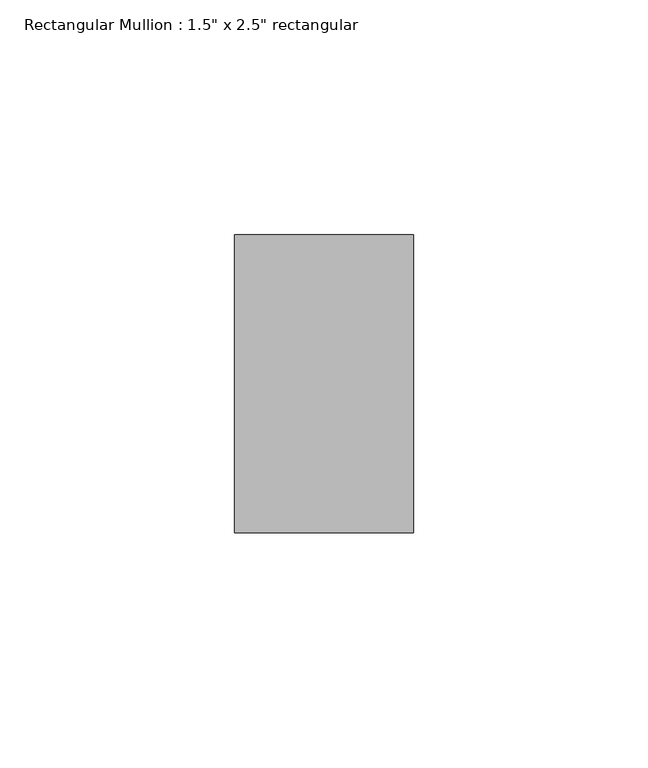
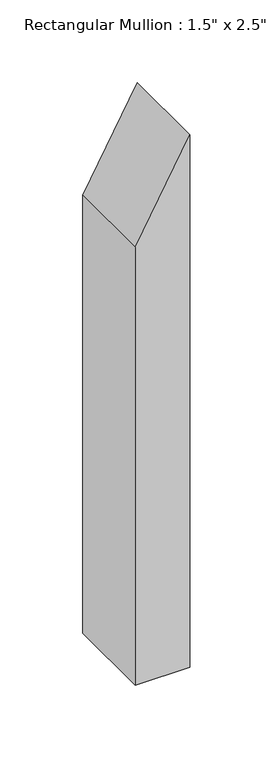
"""IFC4 building model written with IfcOpenShell, lengths in millimetres: member geometry."""

from ifc_helpers import new_model, si_unit, frame, origin, place, context, project, spatial, polyline, outline, extrude, source, transform, mapped, element, save


def member_2b5b1d27(model_context):
    return source(origin(), model_context, "Body", "SweptSolid", [
        extrude(outline(polyline([(0.0, 0.0), (-69.462522, -38.1), (-392.4188496, -38.1), (-392.4188496, 0.0), (0.0, 0.0)])), frame((0.0, -31.75, 0.0), z_axis=(0.0, 1.0, 0.0), x_axis=(0.0, 0.0, 1.0)), (0.0, 0.0, 1.0), 63.5),
    ])


if __name__ == "__main__":
    model = new_model("IFC4")
    model_context = context("Model", 3, world=origin())
    ifc_project = project(units=[si_unit("LENGTHUNIT", "METRE", prefix="MILLI")], contexts=[model_context])
    site = spatial("IfcSite", under=ifc_project)
    building = spatial("IfcBuilding", under=site)
    placement = place(None, origin())
    member_shape = member_2b5b1d27(model_context)
    element("IfcMember", 1, ObjectType="Rectangular Mullion : 1.5\" x 2.5\" rectangular", at=placement, inside=building, context=model_context, shape_type="MappedRepresentation", body=[
        mapped(member_shape, transform((0.0, 0.0, 0.0), x_axis=(1.0, 0.0, 0.0), y_axis=(0.0, 1.0, 0.0), z_axis=(0.0, 0.0, 1.0))),
    ])
    save(model, "model.ifc")
